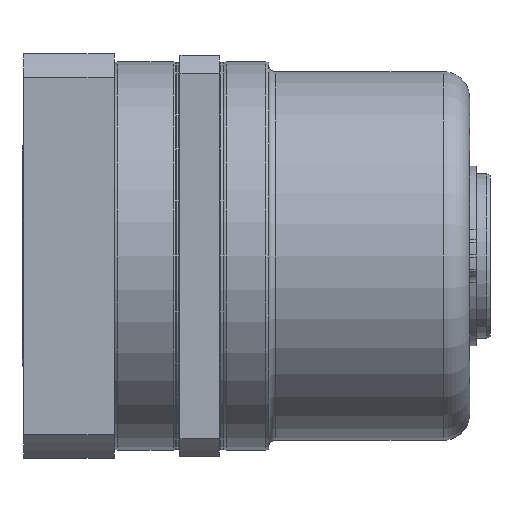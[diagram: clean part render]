
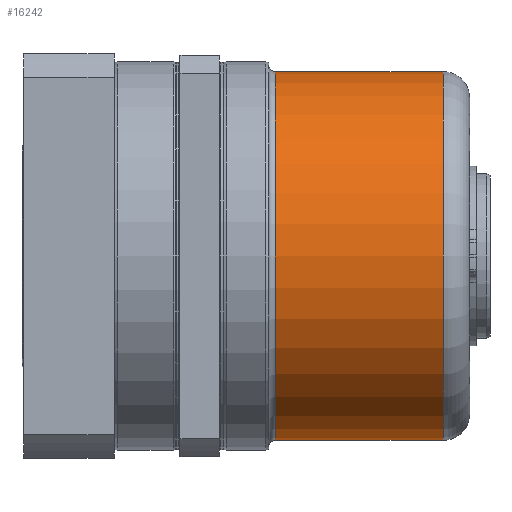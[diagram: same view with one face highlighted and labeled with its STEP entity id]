
A CAD part, front view. The second image highlights one B-rep face of the part: STEP entity #16242.
In plain terms, the highlighted cylindrical face has radius 56 mm (diameter 112 mm), a partial arc.
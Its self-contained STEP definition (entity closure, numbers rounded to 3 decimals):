
#593 = CARTESIAN_POINT ( 'NONE',  ( 100., 0., -56. ) ) ;
#1451 = DIRECTION ( 'NONE',  ( 0., 0., -1. ) ) ;
#1867 = VECTOR ( 'NONE', #9756, 1000. ) ;
#2419 = CARTESIAN_POINT ( 'NONE',  ( 49., 0., 0. ) ) ;
#3494 = CIRCLE ( 'NONE', #5719, 56. ) ;
#3862 = DIRECTION ( 'NONE',  ( 1., 0., 0. ) ) ;
#4561 = CARTESIAN_POINT ( 'NONE',  ( 47., 0., 56. ) ) ;
#4660 = EDGE_CURVE ( 'NONE', #11784, #14206, #5192, .T. ) ;
#4814 = LINE ( 'NONE', #8758, #9708 ) ;
#5192 = CIRCLE ( 'NONE', #7398, 56. ) ;
#5345 = CARTESIAN_POINT ( 'NONE',  ( 100., 0., 0. ) ) ;
#5719 = AXIS2_PLACEMENT_3D ( 'NONE', #2419, #3862, #7787 ) ;
#6287 = FACE_OUTER_BOUND ( 'NONE', #7588, .T. ) ;
#6438 = EDGE_CURVE ( 'NONE', #10611, #11784, #4814, .T. ) ;
#7398 = AXIS2_PLACEMENT_3D ( 'NONE', #5345, #13051, #1451 ) ;
#7588 = EDGE_LOOP ( 'NONE', ( #10159, #12529, #15002, #10013 ) ) ;
#7762 = CARTESIAN_POINT ( 'NONE',  ( 49., 0., 56. ) ) ;
#7787 = DIRECTION ( 'NONE',  ( 0., 0., -1. ) ) ;
#8348 = CYLINDRICAL_SURFACE ( 'NONE', #8450, 56. ) ;
#8450 = AXIS2_PLACEMENT_3D ( 'NONE', #12290, #16603, #15128 ) ;
#8758 = CARTESIAN_POINT ( 'NONE',  ( 47., 0., -56. ) ) ;
#9708 = VECTOR ( 'NONE', #13895, 1000. ) ;
#9756 = DIRECTION ( 'NONE',  ( 1., 0., 0. ) ) ;
#10013 = ORIENTED_EDGE ( 'NONE', *, *, #4660, .T. ) ;
#10159 = ORIENTED_EDGE ( 'NONE', *, *, #15396, .F. ) ;
#10611 = VERTEX_POINT ( 'NONE', #16617 ) ;
#11784 = VERTEX_POINT ( 'NONE', #593 ) ;
#12290 = CARTESIAN_POINT ( 'NONE',  ( 47., 0., 0. ) ) ;
#12529 = ORIENTED_EDGE ( 'NONE', *, *, #14298, .T. ) ;
#13051 = DIRECTION ( 'NONE',  ( -1., 0., 0. ) ) ;
#13788 = VERTEX_POINT ( 'NONE', #7762 ) ;
#13895 = DIRECTION ( 'NONE',  ( 1., 0., 0. ) ) ;
#14206 = VERTEX_POINT ( 'NONE', #16340 ) ;
#14298 = EDGE_CURVE ( 'NONE', #13788, #10611, #3494, .T. ) ;
#14974 = LINE ( 'NONE', #4561, #1867 ) ;
#15002 = ORIENTED_EDGE ( 'NONE', *, *, #6438, .T. ) ;
#15128 = DIRECTION ( 'NONE',  ( 0., 0., -1. ) ) ;
#15396 = EDGE_CURVE ( 'NONE', #13788, #14206, #14974, .T. ) ;
#16242 = ADVANCED_FACE ( 'NONE', ( #6287 ), #8348, .T. ) ;
#16340 = CARTESIAN_POINT ( 'NONE',  ( 100., 0., 56. ) ) ;
#16603 = DIRECTION ( 'NONE',  ( 1., 0., 0. ) ) ;
#16617 = CARTESIAN_POINT ( 'NONE',  ( 49., 0., -56. ) ) ;
